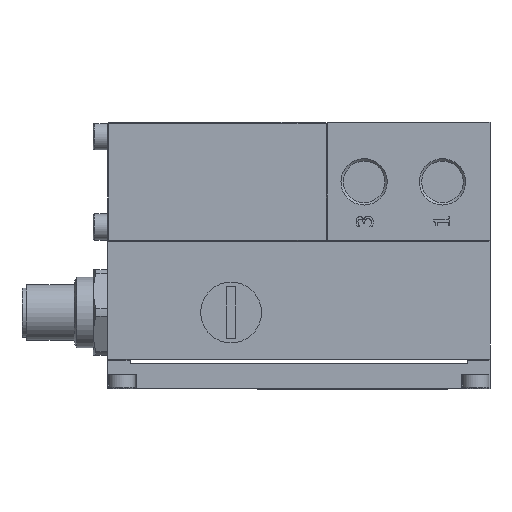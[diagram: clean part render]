
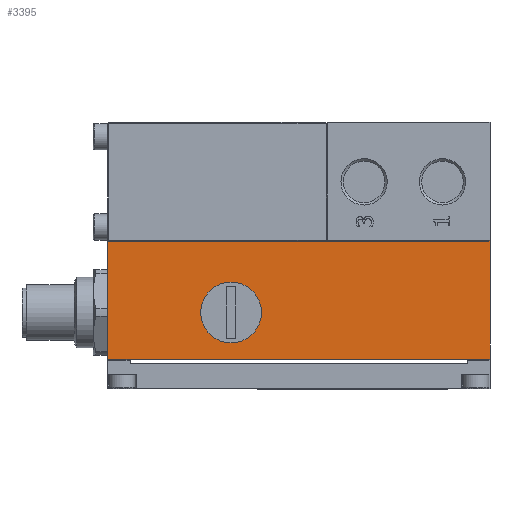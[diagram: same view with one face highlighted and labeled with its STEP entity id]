
A CAD part, front view. The second image highlights one B-rep face of the part: STEP entity #3395.
In plain terms, the highlighted planar face has unit normal (0, -1, 0).
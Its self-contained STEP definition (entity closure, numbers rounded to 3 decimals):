
#1200=CARTESIAN_POINT('',(-63.25,0.,-24.8));
#1201=VERTEX_POINT('',#1200);
#1208=CARTESIAN_POINT('',(-63.25,0.,0.0));
#1209=VERTEX_POINT('',#1208);
#1210=CARTESIAN_POINT('',(-63.25,0.,0.0));
#1211=DIRECTION('',(0.0,0.0,-1.0));
#1212=VECTOR('',#1211,24.8);
#1213=LINE('',#1210,#1212);
#1214=EDGE_CURVE('',#1209,#1201,#1213,.T.);
#1450=CARTESIAN_POINT('',(-30.85,0.,-15.0));
#1451=VERTEX_POINT('',#1450);
#1452=CARTESIAN_POINT('',(-37.25,0.,-15.0));
#1453=DIRECTION('',(0.0,1.0,0.0));
#1454=DIRECTION('',(-1.0,0.0,0.0));
#1455=AXIS2_PLACEMENT_3D('',#1452,#1453,#1454);
#1456=CIRCLE('',#1455,6.4);
#1457=EDGE_CURVE('',#1451,#1451,#1456,.T.);
#2522=CARTESIAN_POINT('',(-58.5,0.,-24.8));
#2523=VERTEX_POINT('',#2522);
#2593=CARTESIAN_POINT('',(12.5,0.,-24.8));
#2594=VERTEX_POINT('',#2593);
#2798=CARTESIAN_POINT('',(17.25,0.,-24.8));
#2799=VERTEX_POINT('',#2798);
#2806=CARTESIAN_POINT('',(17.25,0.,-24.8));
#2807=DIRECTION('',(-1.0,0.0,0.0));
#2808=VECTOR('',#2807,4.75);
#2809=LINE('',#2806,#2808);
#2810=EDGE_CURVE('',#2799,#2594,#2809,.T.);
#2821=CARTESIAN_POINT('',(-58.5,0.,-24.8));
#2822=DIRECTION('',(-1.0,0.0,0.0));
#2823=VECTOR('',#2822,4.75);
#2824=LINE('',#2821,#2823);
#2825=EDGE_CURVE('',#2523,#1201,#2824,.T.);
#3037=CARTESIAN_POINT('',(12.5,0.,-24.8));
#3038=DIRECTION('',(-1.0,0.0,0.0));
#3039=VECTOR('',#3038,71.0);
#3040=LINE('',#3037,#3039);
#3041=EDGE_CURVE('',#2594,#2523,#3040,.T.);
#3289=CARTESIAN_POINT('',(17.25,0.,0.0));
#3290=VERTEX_POINT('',#3289);
#3291=CARTESIAN_POINT('',(-63.25,0.,0.0));
#3292=DIRECTION('',(1.0,0.0,0.0));
#3293=VECTOR('',#3292,80.5);
#3294=LINE('',#3291,#3293);
#3295=EDGE_CURVE('',#1209,#3290,#3294,.T.);
#3374=CARTESIAN_POINT('',(-63.25,0.,0.0));
#3375=DIRECTION('',(0.0,-1.0,0.0));
#3376=DIRECTION('',(0.0,0.0,-1.0));
#3377=AXIS2_PLACEMENT_3D('',#3374,#3375,#3376);
#3378=PLANE('',#3377);
#3379=ORIENTED_EDGE('',*,*,#2810,.F.);
#3380=CARTESIAN_POINT('',(17.25,0.,0.0));
#3381=DIRECTION('',(0.0,0.0,-1.0));
#3382=VECTOR('',#3381,24.8);
#3383=LINE('',#3380,#3382);
#3384=EDGE_CURVE('',#3290,#2799,#3383,.T.);
#3385=ORIENTED_EDGE('',*,*,#3384,.F.);
#3386=ORIENTED_EDGE('',*,*,#3295,.F.);
#3387=ORIENTED_EDGE('',*,*,#1214,.T.);
#3388=ORIENTED_EDGE('',*,*,#2825,.F.);
#3389=ORIENTED_EDGE('',*,*,#3041,.F.);
#3390=EDGE_LOOP('',(#3379,#3385,#3386,#3387,#3388,#3389));
#3391=FACE_OUTER_BOUND('',#3390,.T.);
#3392=ORIENTED_EDGE('',*,*,#1457,.T.);
#3393=EDGE_LOOP('',(#3392));
#3394=FACE_BOUND('',#3393,.T.);
#3395=ADVANCED_FACE('',(#3391,#3394),#3378,.T.);
